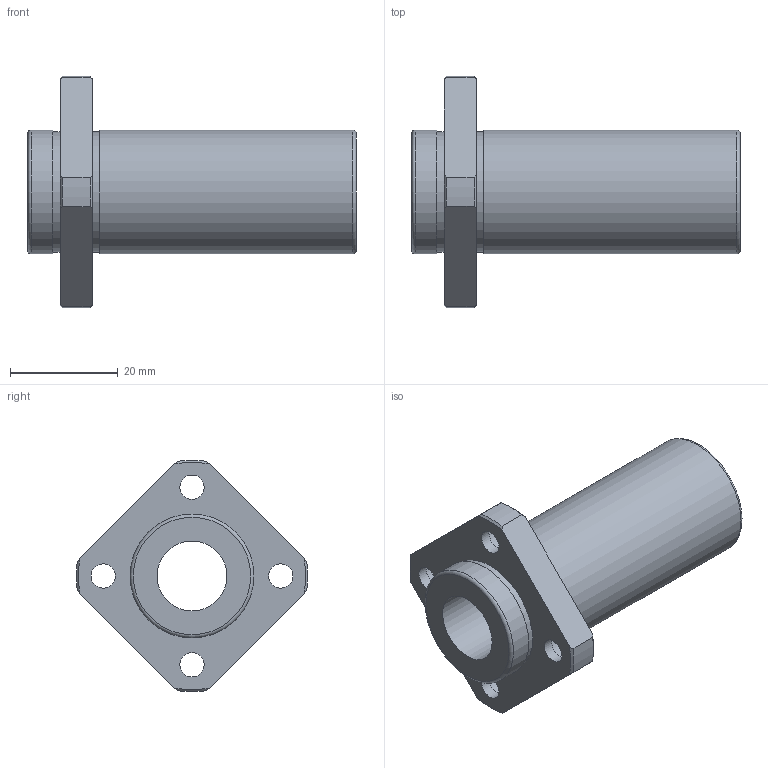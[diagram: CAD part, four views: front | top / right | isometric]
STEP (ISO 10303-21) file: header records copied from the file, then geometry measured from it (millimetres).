
FILE_DESCRIPTION(('STEP AP203'),'1');
FILE_NAME('//192.168.1.1/share/s-4 技術開発/s-4-4_CAD/s-4-4-3_見直し済み/002 修正済み/NFIS-VL/NFIS-VL_TOP/NFIS-13VLUU.step','2022-03-08T02:38:59',(' '),(' '),'Spatial InterOp 3D',' ',' ');
FILE_SCHEMA(('CONFIG_CONTROL_DESIGN'));
Length unit declared in the file: millimetre
Products named in the file (1): 1
Bounding box: 61 x 42.96 x 42.96 mm (x, y, z)
Volume: 20598.9 mm3; surface area: 9631.3 mm2
Topology: 1 solids, 1 shells, 41 faces, 99 edges, 68 vertices
Faces by surface type: cylinder 17, plane 14, cone 8, torus 2
Full cylindrical faces by diameter (mm): 4.5 x4, 7.5 x4, 13 x1, 22.3 x2, 23 x2
Entity records: 1158 total; most frequent: CARTESIAN_POINT 226, DIRECTION 188, ORIENTED_EDGE 152, AXIS2_PLACEMENT_3D 86, EDGE_CURVE 76, EDGE_LOOP 74, VERTEX_POINT 60, FACE_OUTER_BOUND 56
